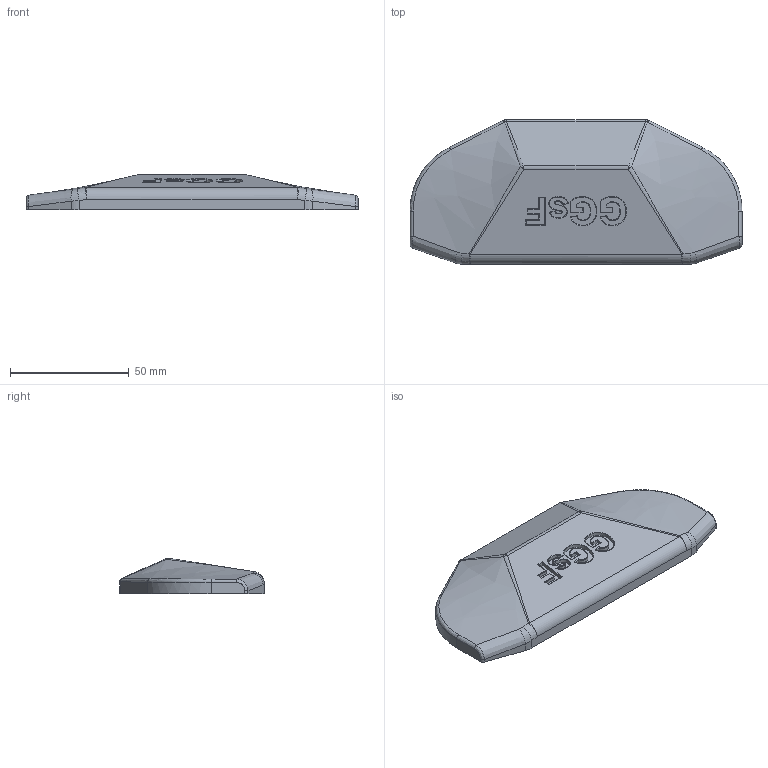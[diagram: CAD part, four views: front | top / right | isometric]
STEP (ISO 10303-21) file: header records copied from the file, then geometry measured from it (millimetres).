
FILE_DESCRIPTION(/* description */ (''),/* implementation_level */ '2;1');
FILE_NAME(/* name */ 'Front Cover_Part 01.stp',/* time_stamp */ '2025-08-28T02:56:31+09:00',/* author */ (''),/* organization */ (''),/* preprocessor_version */ 'ST-DEVELOPER v11',/* originating_system */ 'SIEMENS PLM Software NX 7.5',/* authorisation */ '');
FILE_SCHEMA (('CONFIG_CONTROL_DESIGN'));
Length unit declared in the file: millimetre
Products named in the file (1): gyunFAD7nv22
Bounding box: 140 x 61 x 14.9 mm (x, y, z)
Volume: 70425.8 mm3; surface area: 19054.6 mm2
Topology: 1 solids, 1 shells, 141 faces, 383 edges, 245 vertices
Faces by surface type: plane 44, bspline 44, cylinder 37, extrusion 14, sphere 2
Entity records: 6852 total; most frequent: CARTESIAN_POINT 3624, ORIENTED_EDGE 754, DIRECTION 504, EDGE_CURVE 377, VERTEX_POINT 243, VECTOR 170, AXIS2_PLACEMENT_3D 167, LINE 156
